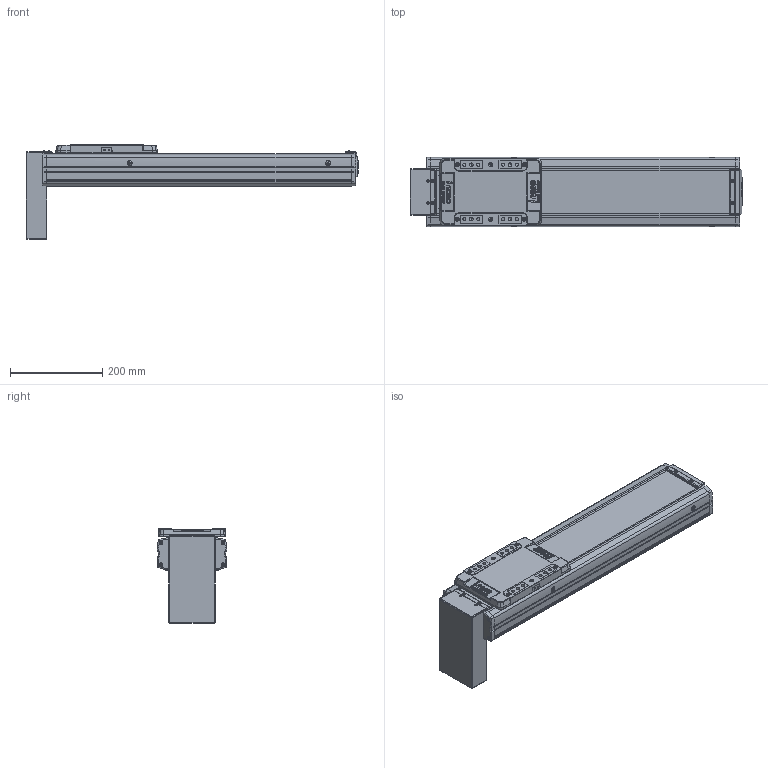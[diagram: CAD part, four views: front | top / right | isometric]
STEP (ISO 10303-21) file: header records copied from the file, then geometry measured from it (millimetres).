
FILE_DESCRIPTION(('STEP AP214'),'1');
FILE_NAME('Z:/Web/3D/SAN150/2013.04 (STP.)/SAN150ㅁㅁ-400PB.stp','2013-05-07T23:45:07',(' '),(' '),'Spatial InterOp 3D',' ',' ');
FILE_SCHEMA(('automotive_design'));
Length unit declared in the file: millimetre
Products named in the file (40): SLBL-SAN150; SLCV-SAN150; FHCS M4.0 x 8.0; BHCS M4.0 x 10.0; SFX-SAN150; RRCV-SAN150; FRBL-SAN150; Spacer; RN15; FRCV-SAN150; Screw 20; BASE-SAN150-000L ; SUS COVER; 스크루 : Round - M5.0 x 6.0; PB; 스크루 : Round - M3.0 x 6.0
Bounding box: 720 x 150 x 205.4 mm (x, y, z)
Volume: 4920991.6 mm3; surface area: 841394.5 mm2
Topology: 40 solids, 40 shells, 2099 faces, 5386 edges, 3439 vertices
Faces by surface type: plane 1031, cylinder 741, cone 234, sphere 60, bspline 21, torus 12
Entity records: 83092 total; most frequent: CARTESIAN_POINT 13438, DIRECTION 11444, ORIENTED_EDGE 10564, EDGE_CURVE 5282, AXIS2_PLACEMENT_3D 4120, VERTEX_POINT 3439, LINE 3204, VECTOR 3204
